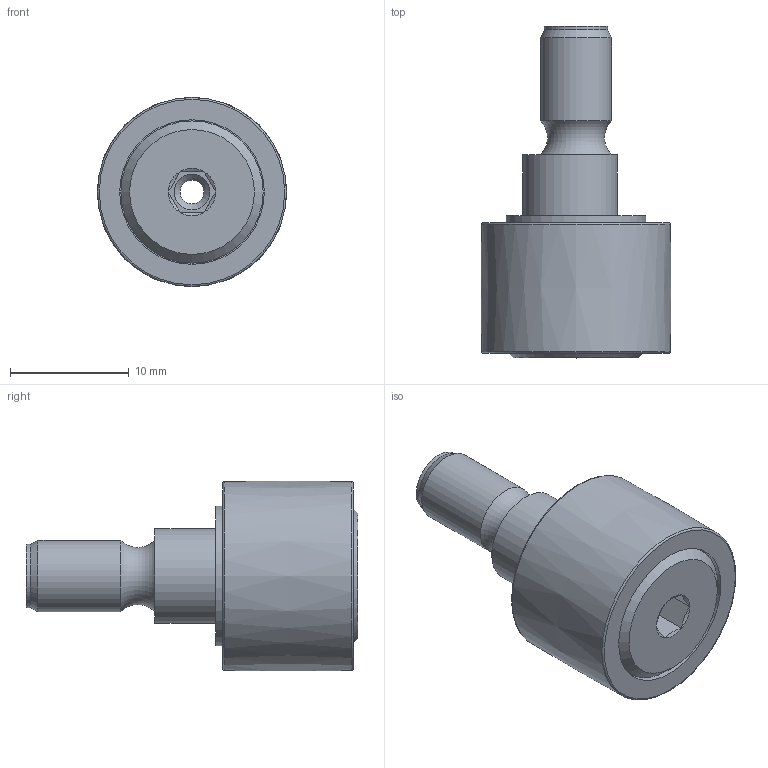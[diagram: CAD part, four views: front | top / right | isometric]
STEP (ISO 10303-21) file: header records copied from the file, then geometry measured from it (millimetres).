
FILE_DESCRIPTION(/* description */ (''),/* implementation_level */ '2;1');
FILE_NAME(/* name */ 'KRE16.stp',/* time_stamp */ '2024-12-04T12:46:15+01:00',/* author */ ('OUPIONTEKM'),/* organization */ (''),/* preprocessor_version */ 'ST-DEVELOPER v20',/* originating_system */ 'Autodesk Inventor 2025',/* authorisation */ '');
FILE_SCHEMA (('AUTOMOTIVE_DESIGN { 1 0 10303 214 3 1 1 }'));
Length unit declared in the file: millimetre
Products named in the file (7): KRV16PP; KRV16PP-02; KRV16PP-needle; KRV16PP-02_1; KRV16PP-seal; KRV16PP-flange; EXCENTER
Assembly tree (17 placements, depth 2):
  KRV16PP
    KRV16PP-02
    KRV16PP-needle  x12
    KRV16PP-02_1
    KRV16PP-seal
    KRV16PP-flange
    EXCENTER
Bounding box: 16 x 28 x 16 mm (x, y, z)
Volume: 2526 mm3; surface area: 3888.8 mm2
Topology: 18 solids, 18 shells, 114 faces, 172 edges, 104 vertices
Faces by surface type: plane 58, cylinder 36, cone 16, torus 3, bspline 1
Full cylindrical faces by diameter (mm): 0.5 x1, 1.138 x12, 2 x1, 3 x2, 5 x1, 5.333 x1, 6 x2, 6.4 x1, 6.6 x1, 7.2 x1, 8 x1, 8.4 x1, 10.677 x1, 11.8 x1, 12 x3, 12.2 x2, 15 x4
Entity records: 2351 total; most frequent: CARTESIAN_POINT 444, DIRECTION 401, ORIENTED_EDGE 278, AXIS2_PLACEMENT_3D 174, EDGE_CURVE 139, EDGE_LOOP 105, VERTEX_POINT 82, FACE_OUTER_BOUND 81
